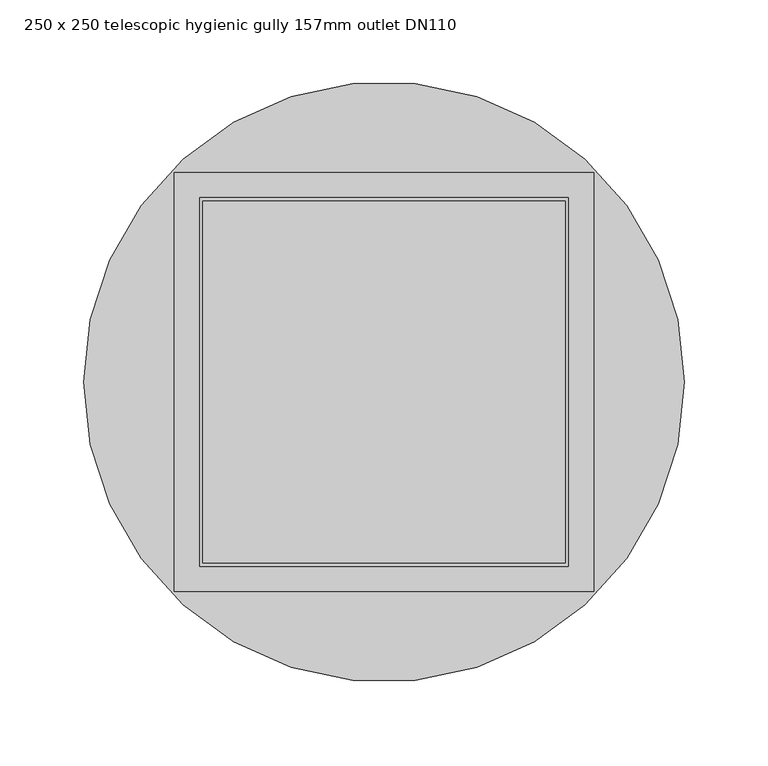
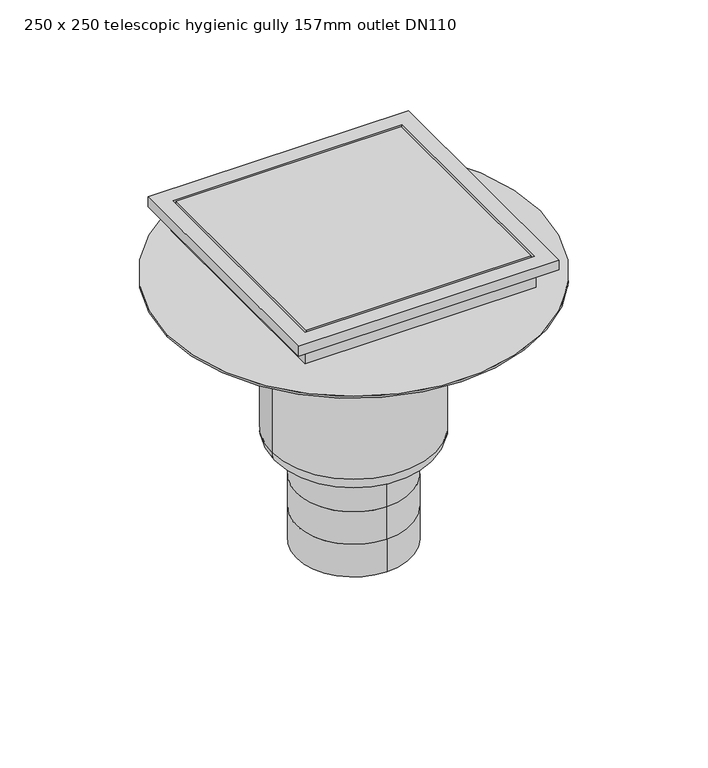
"""IFC4 building model written with IfcOpenShell, lengths in millimetres: sanitary terminal geometry, PF_ST_UN_Siphon telescopics eskis hygiene first_ACO : 250 x 250 telescopic hygienic gully 157mm outlet DN110."""

from ifc_helpers import new_model, si_unit, point, frame, origin, origin_2d, place, context, project, spatial, polyline, circle_curve, ellipse_curve, trimmed, segment, composite_curve, outline, extrude, faceted_brep, source, transform, mapped, element, save
from ifc_brep_helpers import plane_surface, cylinder_surface, revolved_surface, advanced_brep


def sanitary_terminal_250_x_250_telescopic_hygienic_gully_157mm_a7f66a5e(model_context):
    return source(origin(), model_context, "Body", "SolidModel", [
        extrude(outline(composite_curve([segment(trimmed(circle_curve(origin_2d(), 71.5), [point((-71.5, 0.0))], [point((71.5, 0.0))], False, "CARTESIAN"), True, "CONTINUOUS"), segment(trimmed(circle_curve(origin_2d(), 71.5), [point((71.5, 0.0))], [point((-71.5, 0.0))], False, "CARTESIAN"), True, "CONTINUOUS")], self_intersect=False)), frame((0.0, 0.0, -215.0), z_axis=(0.0, 0.0, 1.0), x_axis=(1.0, 0.0, 0.0)), (0.0, 0.0, 1.0), 64.0),
        faceted_brep([(125.0, 125.0, -130.0), (125.0, 125.0, -120.0), (125.0, -125.0, -120.0), (125.0, -125.0, -130.0), (111.0, 111.0, -151.0), (111.0, 111.0, -130.0), (111.0, -111.0, -130.0), (111.0, -111.0, -151.0), (110.0, -110.0, -120.0), (110.0, 110.0, -120.0), (110.0, 110.0, -141.0), (110.0, -110.0, -141.0), (-125.0, -125.0, -120.0), (-125.0, -125.0, -130.0), (-111.0, -111.0, -130.0), (-111.0, -111.0, -151.0), (-110.0, -110.0, -120.0), (-110.0, -110.0, -141.0), (-125.0, 125.0, -120.0), (-125.0, 125.0, -130.0), (-111.0, 111.0, -130.0), (-111.0, 111.0, -151.0), (-110.0, 110.0, -120.0), (-110.0, 110.0, -141.0)], [[[0, 1, 2, 3]], [[4, 5, 6, 7]], [[8, 9, 10, 11]], [[3, 2, 12, 13]], [[7, 6, 14, 15]], [[16, 8, 11, 17]], [[13, 12, 18, 19]], [[15, 14, 20, 21]], [[22, 16, 17, 23]], [[2, 1, 18, 12], [9, 8, 16, 22]], [[1, 0, 19, 18]], [[0, 3, 13, 19], [6, 5, 20, 14]], [[5, 4, 21, 20]], [[4, 7, 15, 21]], [[9, 22, 23, 10]], [[11, 10, 23, 17]]]),
        extrude(outline(polyline([(108.0, 108.0), (108.0, -108.0), (-108.0, -108.0), (-108.0, 108.0), (108.0, 108.0)])), frame((0.0, 0.0, -141.0), z_axis=(0.0, 0.0, 1.0), x_axis=(1.0, 0.0, 0.0)), (0.0, 0.0, 1.0), 21.0),
        advanced_brep(
        [(0.0, -55.0, -435.0), (0.0, 55.0, -435.0), (0.0, -55.0, -402.0), (0.0, 55.0, -402.0), (0.0, -55.0, -369.0), (0.0, 55.0, -369.0), (0.0, 55.0, -336.0), (55.0, 0.0, -336.0), (0.0, -55.0, -336.0), (-55.0, 0.0, -336.0), (78.5, 0.0, -319.5), (-78.5, 0.0, -319.5), (-78.5, 0.0, -167.0), (78.5, 0.0, -167.0), (62.0, 0.0, -336.0), (-62.0, 0.0, -336.0), (-179.0, 0.0, -167.0), (179.0, 0.0, -167.0), (-179.0, 0.0, -165.0), (179.0, 0.0, -165.0)],
        [
            (0, 1, circle_curve(frame((0.0, 0.0, -435.0), z_axis=(0.0, 0.0, -1.0), x_axis=(0.0, 1.0, 0.0)), 55.0)),
            (1, 0, circle_curve(frame((0.0, 0.0, -435.0), z_axis=(0.0, 0.0, -1.0), x_axis=(0.0, 1.0, 0.0)), 55.0)),
            (0, 2),
            (2, 3, circle_curve(frame((0.0, 0.0, -402.0), z_axis=(0.0, 0.0, -1.0), x_axis=(0.0, 1.0, 0.0)), 55.0)),
            (3, 1),
            (3, 2, circle_curve(frame((0.0, 0.0, -402.0), z_axis=(0.0, 0.0, -1.0), x_axis=(0.0, 1.0, 0.0)), 55.0)),
            (4, 2),
            (3, 5),
            (5, 4, circle_curve(frame((0.0, 0.0, -369.0), z_axis=(0.0, 0.0, -1.0), x_axis=(1.0, 0.0, 0.0)), 55.0)),
            (4, 5, circle_curve(frame((0.0, 0.0, -369.0), z_axis=(0.0, 0.0, -1.0), x_axis=(-1.0, 0.0, 0.0)), 55.0)),
            (5, 6),
            (6, 7, circle_curve(frame((0.0, 0.0, -336.0), z_axis=(0.0, 0.0, -1.0), x_axis=(0.0, 1.0, 0.0)), 55.0)),
            (7, 8, circle_curve(frame((0.0, 0.0, -336.0), z_axis=(0.0, 0.0, -1.0), x_axis=(0.0, 1.0, 0.0)), 55.0)),
            (8, 4),
            (8, 9, circle_curve(frame((0.0, 0.0, -336.0), z_axis=(0.0, 0.0, -1.0), x_axis=(0.0, 1.0, 0.0)), 55.0)),
            (9, 6, circle_curve(frame((0.0, 0.0, -336.0), z_axis=(0.0, 0.0, -1.0), x_axis=(0.0, 1.0, 0.0)), 55.0)),
            (10, 11, circle_curve(frame((0.0, 0.0, -319.5), z_axis=(0.0, 0.0, 1.0), x_axis=(-1.0, 0.0, 0.0)), 78.5)),
            (11, 12),
            (12, 13, circle_curve(frame((0.0, 0.0, -167.0), z_axis=(0.0, 0.0, -1.0), x_axis=(-1.0, 0.0, 0.0)), 78.5)),
            (13, 10),
            (11, 10, circle_curve(frame((0.0, 0.0, -319.5), z_axis=(0.0, 0.0, 1.0), x_axis=(-1.0, 0.0, 0.0)), 78.5)),
            (13, 12, circle_curve(frame((0.0, 0.0, -167.0), z_axis=(0.0, 0.0, -1.0), x_axis=(-1.0, 0.0, 0.0)), 78.5)),
            (10, 14, circle_curve(frame((62.0, 0.0, -319.5), z_axis=(0.0, 1.0, 0.0), x_axis=(-1.0, 0.0, 0.0)), 16.5)),
            (14, 15, circle_curve(frame((0.0, 0.0, -336.0), z_axis=(0.0, 0.0, 1.0), x_axis=(-1.0, 0.0, 0.0)), 62.0)),
            (15, 11, circle_curve(frame((-62.0, 0.0, -319.5), z_axis=(0.0, 1.0, 0.0), x_axis=(1.0, 0.0, 0.0)), 16.5)),
            (15, 14, circle_curve(frame((0.0, 0.0, -336.0), z_axis=(0.0, 0.0, 1.0), x_axis=(-1.0, 0.0, 0.0)), 62.0)),
            (14, 7),
            (9, 15),
            (16, 17, circle_curve(frame((0.0, 0.0, -167.0), z_axis=(0.0, 0.0, -1.0), x_axis=(1.0, 0.0, 0.0)), 179.0)),
            (17, 16, circle_curve(frame((0.0, 0.0, -167.0), z_axis=(0.0, 0.0, -1.0), x_axis=(1.0, 0.0, 0.0)), 179.0)),
            (18, 19, circle_curve(frame((0.0, 0.0, -165.0), z_axis=(0.0, 0.0, 1.0), x_axis=(1.0, 0.0, 0.0)), 179.0)),
            (19, 18, circle_curve(frame((0.0, 0.0, -165.0), z_axis=(0.0, 0.0, 1.0), x_axis=(1.0, 0.0, 0.0)), 179.0)),
            (17, 19),
            (18, 16),
        ],
        [
            plane_surface(frame((0.0, 55.0, -435.0), z_axis=(0.0, 0.0, -1.0), x_axis=(1.0, 0.0, 0.0))),
            cylinder_surface(frame((0.0, 0.0, -402.0), z_axis=(0.0, 0.0, -1.0), x_axis=(0.0, 1.0, 0.0)), 55.0),
            cylinder_surface(frame((0.0, 0.0, -369.0), z_axis=(0.0, 0.0, -1.0), x_axis=(1.0, 0.0, 0.0)), 55.0),
            cylinder_surface(frame((0.0, 0.0, -369.0), z_axis=(0.0, 0.0, -1.0), x_axis=(-1.0, 0.0, 0.0)), 55.0),
            cylinder_surface(frame((0.0, 0.0, -336.0), z_axis=(0.0, 0.0, -1.0), x_axis=(0.0, 1.0, 0.0)), 55.0),
            cylinder_surface(frame((0.0, 0.0, -105.0), z_axis=(0.0, 0.0, -1.0), x_axis=(-1.0, 0.0, 0.0)), 78.5),
            revolved_surface(trimmed(ellipse_curve(frame((-62.0, 0.0, -319.5), z_axis=(0.0, -1.0, 0.0), x_axis=(1.0, 0.0, 0.0)), 16.5, 16.5), [point((-78.5, 0.0, -319.5))], [point((-62.0, 0.0, -336.0))], True, "CARTESIAN"), (0.0, 0.0, -105.0), (0.0, 0.0, -1.0)),
            plane_surface(frame((0.0, 0.0, -336.0), z_axis=(0.0, 0.0, -1.0), x_axis=(-1.0, 0.0, 0.0))),
            plane_surface(frame((179.0, 0.0, -167.0), z_axis=(0.0, 0.0, -1.0), x_axis=(0.0, -1.0, 0.0))),
            plane_surface(frame((179.0, 0.0, -165.0), z_axis=(0.0, 0.0, 1.0), x_axis=(0.0, 1.0, 0.0))),
            cylinder_surface(frame((0.0, 0.0, -167.0), z_axis=(0.0, 0.0, 1.0), x_axis=(1.0, 0.0, 0.0)), 179.0),
        ],
        [
            (0, [[1, 2]]),
            (1, [[-1, 3, 4, 5]]),
            (1, [[-2, -5, 6, -3]]),
            (2, [[7, -6, 8, 9]]),
            (3, [[-7, 10, -8, -4]]),
            (4, [[11, 12, 13, 14, -9]]),
            (4, [[-11, -10, -14, 15, 16]]),
            (5, [[17, 18, 19, 20]]),
            (5, [[-18, 21, -20, 22]]),
            (6, [[-17, 23, 24, 25]]),
            (6, [[-21, -25, 26, -23]]),
            (7, [[-24, 27, -12, -16, 28]]),
            (7, [[-26, -28, -15, -13, -27]]),
            (8, [[29, 30], [-19, -22]]),
            (9, [[31, 32]]),
            (10, [[-30, 33, -31, 34]]),
            (10, [[-29, -34, -32, -33]]),
        ],
    ),
    ])


if __name__ == "__main__":
    model = new_model("IFC4")
    model_context = context("Model", 3, world=origin())
    ifc_project = project(units=[si_unit("LENGTHUNIT", "METRE", prefix="MILLI")], contexts=[model_context])
    site = spatial("IfcSite", under=ifc_project)
    building = spatial("IfcBuilding", under=site)
    placement = place(None, origin())
    sanitary_terminal_250_x_250_telescopic_hygienic_gully_157mm_shape = sanitary_terminal_250_x_250_telescopic_hygienic_gully_157mm_a7f66a5e(model_context)
    element("IfcSanitaryTerminal", 1, ObjectType="PF_ST_UN_Siphon telescopics eskis hygiene first_ACO : 250 x 250 telescopic hygienic gully 157mm outlet DN110", at=placement, inside=building, context=model_context, shape_type="MappedRepresentation", body=[
        mapped(sanitary_terminal_250_x_250_telescopic_hygienic_gully_157mm_shape, transform((0.0, 0.0, 0.0), x_axis=(1.0, 0.0, 0.0), y_axis=(0.0, 1.0, 0.0), z_axis=(0.0, 0.0, 1.0))),
    ])
    save(model, "model.ifc")
